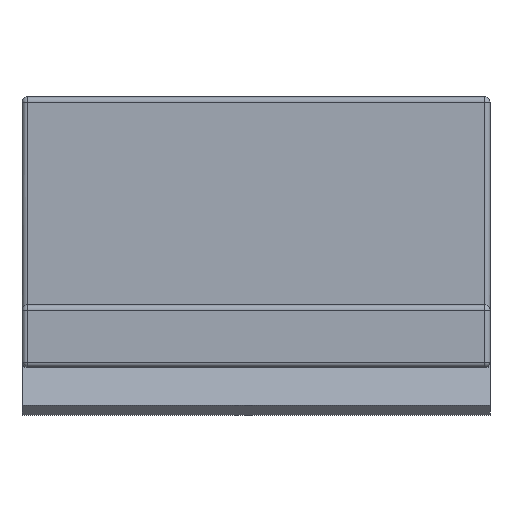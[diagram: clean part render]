
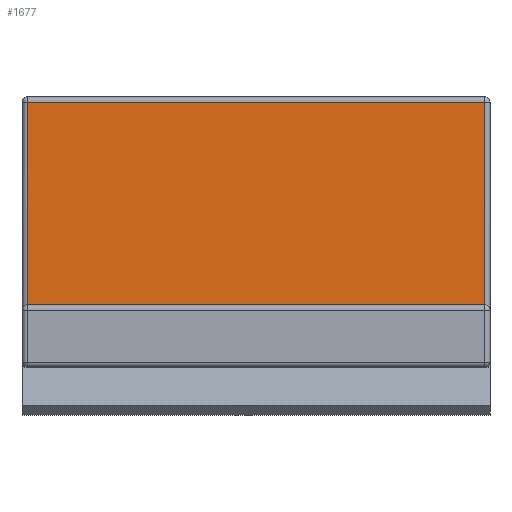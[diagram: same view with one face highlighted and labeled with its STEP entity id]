
A CAD part, left-side view. The second image highlights one B-rep face of the part: STEP entity #1677.
In plain terms, the highlighted planar face has unit normal (-1, 0, 0).
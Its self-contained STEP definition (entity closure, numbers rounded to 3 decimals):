
#37=PLANE('',#1835);
#145=FACE_OUTER_BOUND('',#241,.T.);
#241=EDGE_LOOP('',(#1337,#1338,#1339,#1340));
#378=LINE('',#2617,#560);
#396=LINE('',#2683,#578);
#398=LINE('',#2686,#580);
#400=LINE('',#2692,#582);
#560=VECTOR('',#2104,10.);
#578=VECTOR('',#2188,10.);
#580=VECTOR('',#2192,10.);
#582=VECTOR('',#2200,10.);
#744=VERTEX_POINT('',#2443);
#807=VERTEX_POINT('',#2600);
#809=VERTEX_POINT('',#2606);
#810=VERTEX_POINT('',#2610);
#988=EDGE_CURVE('',#810,#809,#378,.T.);
#1023=EDGE_CURVE('',#744,#810,#396,.T.);
#1025=EDGE_CURVE('',#809,#807,#398,.T.);
#1028=EDGE_CURVE('',#807,#744,#400,.T.);
#1337=ORIENTED_EDGE('',*,*,#1025,.F.);
#1338=ORIENTED_EDGE('',*,*,#988,.F.);
#1339=ORIENTED_EDGE('',*,*,#1023,.F.);
#1340=ORIENTED_EDGE('',*,*,#1028,.F.);
#1677=ADVANCED_FACE('',(#145),#37,.T.);
#1835=AXIS2_PLACEMENT_3D('',#2691,#2198,#2199);
#2104=DIRECTION('',(0.,-1.,0.));
#2188=DIRECTION('',(0.,0.,1.));
#2192=DIRECTION('',(0.,0.,-1.));
#2198=DIRECTION('center_axis',(-1.,0.,0.));
#2199=DIRECTION('ref_axis',(0.,-1.,0.));
#2200=DIRECTION('',(0.,1.,0.));
#2443=CARTESIAN_POINT('',(-22.4,42.,0.));
#2600=CARTESIAN_POINT('',(-22.4,-2.,0.));
#2606=CARTESIAN_POINT('',(-22.4,-2.,19.5));
#2610=CARTESIAN_POINT('',(-22.4,42.,19.5));
#2617=CARTESIAN_POINT('',(-22.4,31.2,19.5));
#2683=CARTESIAN_POINT('',(-22.4,42.,-2.653));
#2686=CARTESIAN_POINT('',(-22.4,-2.,-2.653));
#2691=CARTESIAN_POINT('Origin',(-22.4,42.4,0.));
#2692=CARTESIAN_POINT('',(-22.4,-19.7,0.));
